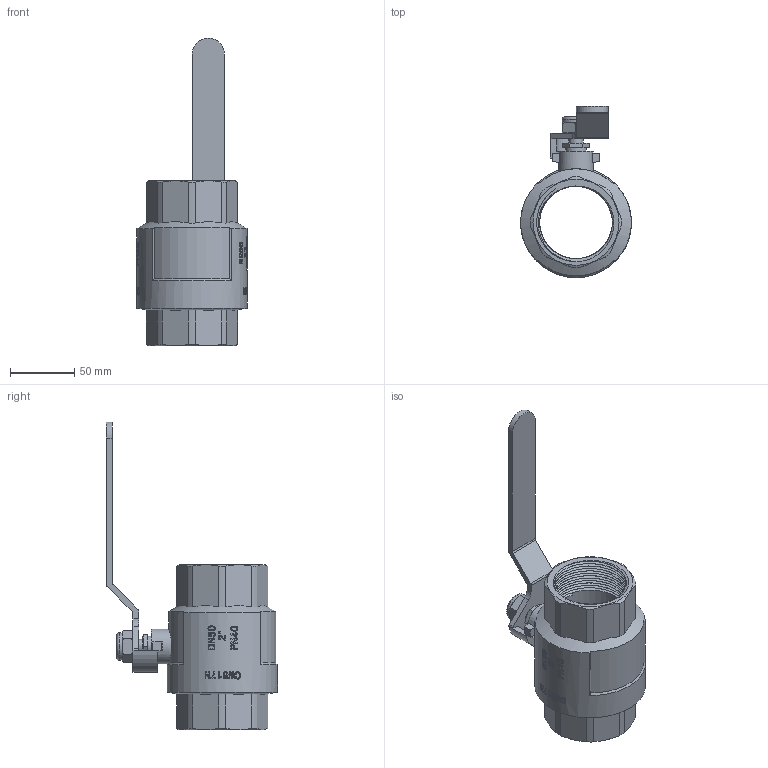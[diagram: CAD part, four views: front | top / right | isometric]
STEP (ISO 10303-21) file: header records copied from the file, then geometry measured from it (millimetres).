
FILE_DESCRIPTION(/* description */ (''),/* implementation_level */ '2;1');
FILE_NAME(/* name */ 'F:\Артём\00000\Работа удаленка\0\B\VT.314.N.09.stp',/* time_stamp */ '2021-02-03T15:45:33+03:00',/* author */ ('almis'),/* organization */ (''),/* preprocessor_version */ 'ST-DEVELOPER v18',/* originating_system */ 'Autodesk Inventor 2020',/* authorisation */ '');
FILE_SCHEMA (('AUTOMOTIVE_DESIGN { 1 0 10303 214 3 1 1 }'));
Length unit declared in the file: millimetre
Products named in the file (1): VT.314_ВВ_2
Bounding box: 86.2 x 133.19 x 239.76 mm (x, y, z)
Volume: 317319.9 mm3; surface area: 89635.1 mm2
Topology: 1 solids, 1 shells, 557 faces, 1506 edges, 1005 vertices
Faces by surface type: plane 212, bspline 197, cylinder 137, cone 9, torus 2
Full cylindrical faces by diameter (mm): 10.969 x1, 16.188 x1, 21.454 x1, 27 x1, 56.6 x24, 61.2 x24, 86 x1
Entity records: 28803 total; most frequent: CARTESIAN_POINT 15874, ORIENTED_EDGE 3012, DIRECTION 1929, EDGE_CURVE 1506, VERTEX_POINT 1005, LINE 683, VECTOR 683, AXIS2_PLACEMENT_3D 623
